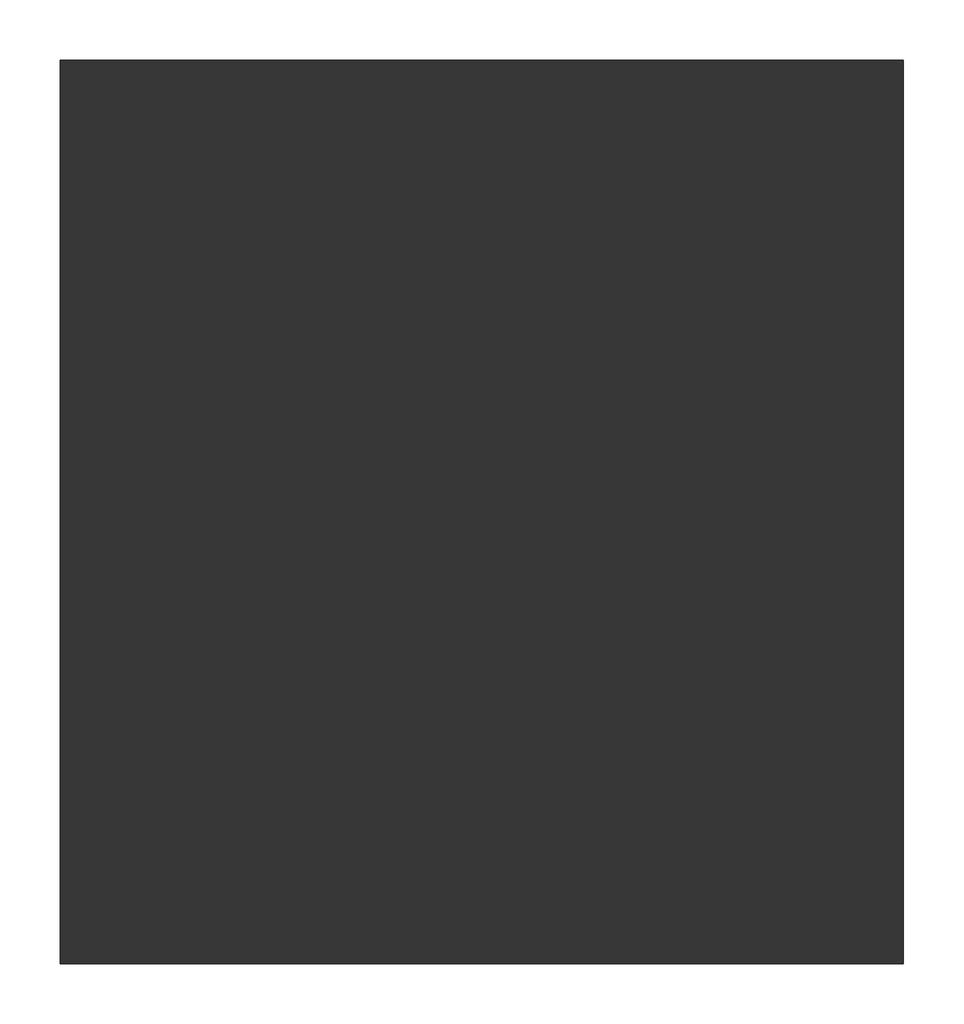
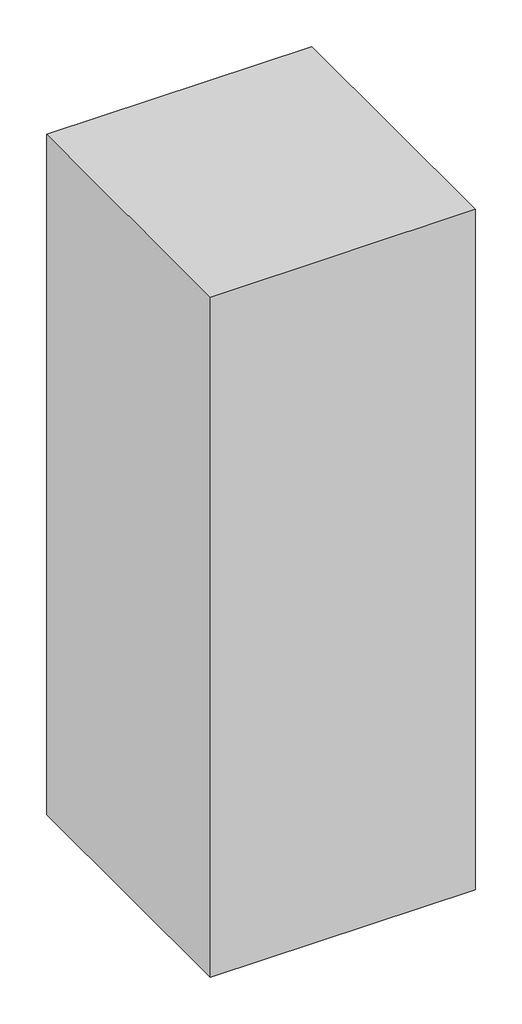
# One storey: 1 column.
"""IFC4 building model written with IfcOpenShell, lengths in millimetres."""

from ifc_helpers import new_model, si_unit, origin, place, context, project, spatial, transform, mapped, element, save
from components import m_coluna_retangular_700_x_750mm_9828c56a

model = new_model("IFC4")

# Units and contexts
model_context = context("Model", 3, world=origin())
ifc_project = project(units=[si_unit("LENGTHUNIT", "METRE", prefix="MILLI")], contexts=[model_context])

# Site, building, storey
site = spatial("IfcSite", under=ifc_project)
building = spatial("IfcBuilding", under=site)
storey = spatial("IfcBuildingStorey", under=building, Name="Nível 0", Elevation=-1900.0)

# Column
placement = place(None, origin())
m_coluna_retangular_700_x_750mm_shape = m_coluna_retangular_700_x_750mm_9828c56a(model_context)
element("IfcColumn", 1, ObjectType="M_Coluna retangular : 700 x 750mm", at=placement, inside=storey, context=model_context, shape_type="MappedRepresentation", body=[
    mapped(m_coluna_retangular_700_x_750mm_shape, transform((1805.8117423, 217.7008908, 0.0), x_axis=(0.0, 1.0, 0.0), y_axis=(-1.0, 0.0, 0.0), z_axis=(0.0, 0.0, 1.0))),
])

save(model, "model.ifc")
